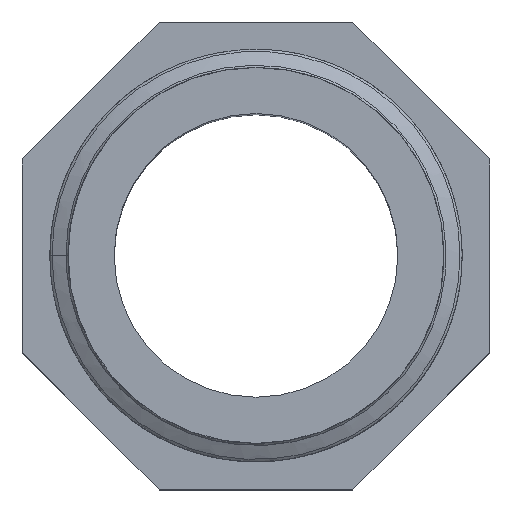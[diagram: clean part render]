
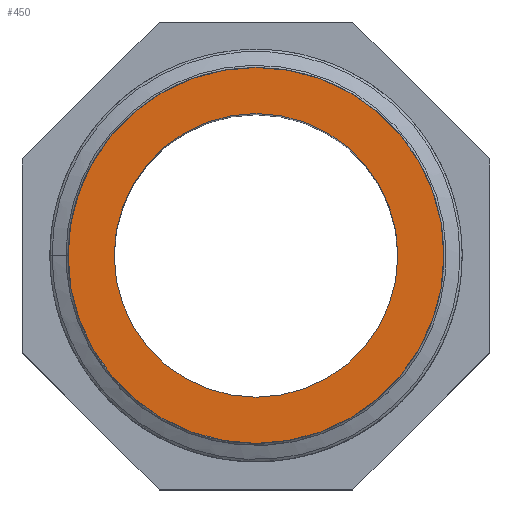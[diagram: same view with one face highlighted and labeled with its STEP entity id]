
A CAD part, top view. The second image highlights one B-rep face of the part: STEP entity #450.
In plain terms, the highlighted planar face has unit normal (0, 0, 1).
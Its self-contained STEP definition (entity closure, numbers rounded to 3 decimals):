
#25=CIRCLE('',#474,12.059);
#26=CIRCLE('',#476,9.1);
#42=FACE_BOUND('',#123,.T.);
#91=FACE_OUTER_BOUND('',#122,.T.);
#122=EDGE_LOOP('',(#408));
#123=EDGE_LOOP('',(#409));
#221=VERTEX_POINT('',#7055);
#222=VERTEX_POINT('',#7547);
#283=EDGE_CURVE('',#221,#221,#25,.T.);
#284=EDGE_CURVE('',#222,#222,#26,.T.);
#408=ORIENTED_EDGE('',*,*,#283,.T.);
#409=ORIENTED_EDGE('',*,*,#284,.T.);
#423=PLANE('',#479);
#450=ADVANCED_FACE('',(#91,#42),#423,.T.);
#474=AXIS2_PLACEMENT_3D('',#7545,#554,#555);
#476=AXIS2_PLACEMENT_3D('',#7548,#558,#559);
#479=AXIS2_PLACEMENT_3D('',#7552,#564,#565);
#554=DIRECTION('center_axis',(0.,0.,1.));
#555=DIRECTION('ref_axis',(-1.,0.,0.));
#558=DIRECTION('center_axis',(0.,0.,-1.));
#559=DIRECTION('ref_axis',(-1.,0.,0.));
#564=DIRECTION('center_axis',(0.,0.,1.));
#565=DIRECTION('ref_axis',(1.,0.,0.));
#7055=CARTESIAN_POINT('',(-12.059,0.,22.5));
#7545=CARTESIAN_POINT('Origin',(0.,0.,22.5));
#7547=CARTESIAN_POINT('',(9.1,0.,22.5));
#7548=CARTESIAN_POINT('Origin',(0.,0.,22.5));
#7552=CARTESIAN_POINT('Origin',(0.,0.,
22.5));
